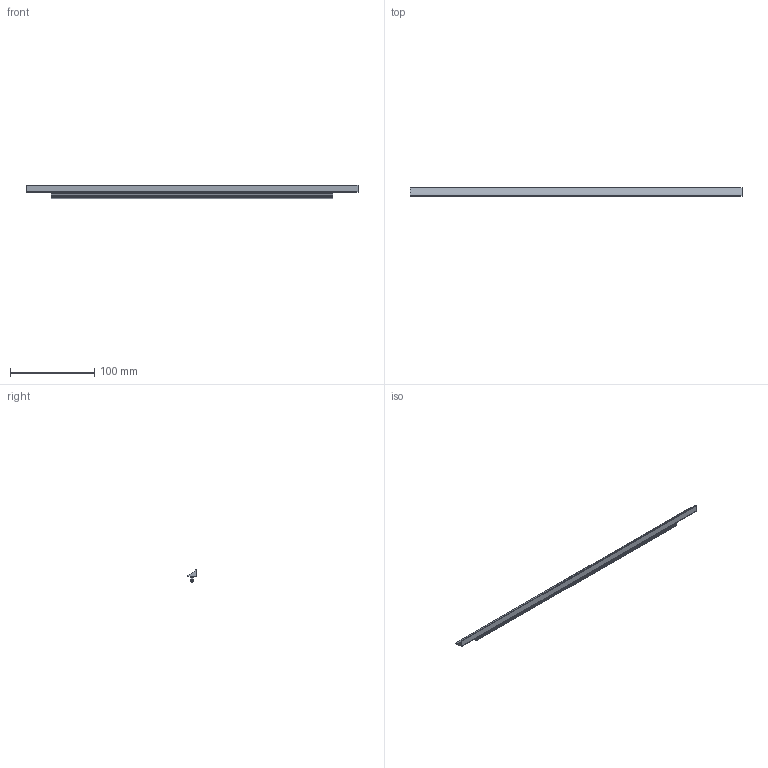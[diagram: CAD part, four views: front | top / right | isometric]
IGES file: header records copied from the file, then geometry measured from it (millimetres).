
Start section: Data from Parasolid IGES Translator 20.0.26, Copyright(c) 2006 Siemens P LM Software. All Rights Reserved.
Global section: file name: 9208098.igs; native system: By Siemens PLM Incorporated; preprocessor: XPlus GENERIC/IGES 20.0.26; author: Noname; organization: Noname; date: 20211115.182352; units: millimetre
Bounding box: 395 x 10.5 x 16.51 mm (x, y, z)
Surface area: 19504 mm2 (no closed solid volume)
Topology: 0 solids, 0 shells, 30 faces, 162 edges, 162 vertices
Faces by surface type: extrusion 25, revolution 5
